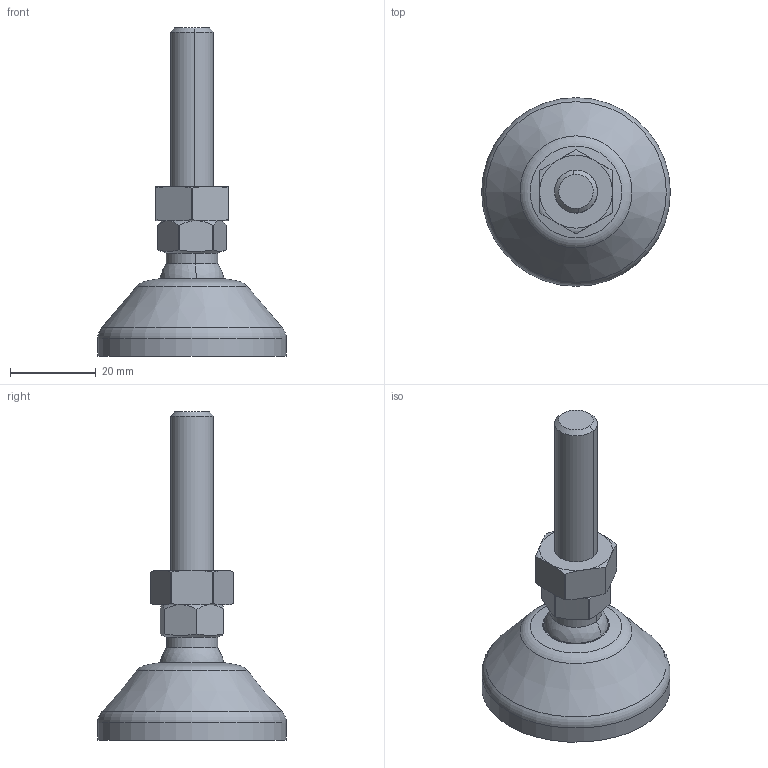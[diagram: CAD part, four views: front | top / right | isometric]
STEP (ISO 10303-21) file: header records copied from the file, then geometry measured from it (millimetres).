
FILE_DESCRIPTION(('STEP AP242'),'1');
FILE_NAME('TAPID45M10045PA.stp','2026-10-12T12:52:20',(' '),(' '),'Spatial InterOp 3D',' ',' ');
FILE_SCHEMA(('AP242_MANAGED_MODEL_BASED_3D_ENGINEERING_MIM_LF {1 0 10303 442 1 1 4}'));
Length unit declared in the file: millimetre
Products named in the file (4): TAPID45M10045PA; H DIN 934 M10 - Zn; fath_098dm10045m; Embase PA Ø45 (Ø15)
Assembly tree (3 placements, depth 2):
  TAPID45M10045PA
    H DIN 934 M10 - Zn
    fath_098dm10045m
    Embase PA Ø45 (Ø15)
Bounding box: 44 x 44 x 76.5 mm (x, y, z)
Volume: 23106.4 mm3; surface area: 8889 mm2
Topology: 3 solids, 3 shells, 82 faces, 191 edges, 114 vertices
Faces by surface type: cylinder 23, plane 20, torus 18, cone 16, sphere 5
Full cylindrical faces by diameter (mm): 8.5 x1, 15 x1, 15.5 x1, 34 x1, 44 x1
Entity records: 3452 total; most frequent: CARTESIAN_POINT 823, DIRECTION 386, ORIENTED_EDGE 344, AXIS2_PLACEMENT_3D 172, EDGE_CURVE 172, VERTEX_POINT 113, EDGE_LOOP 101, FACE_OUTER_BOUND 91
